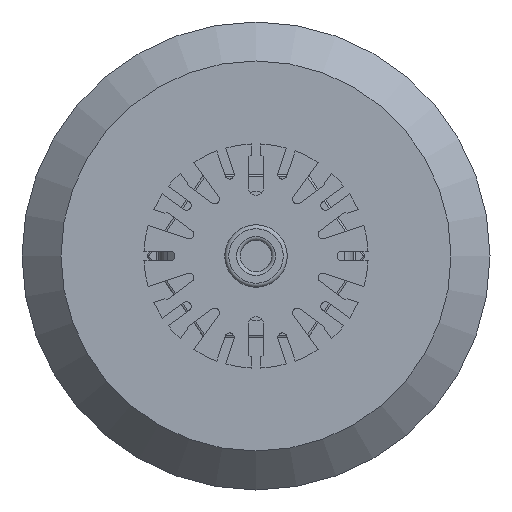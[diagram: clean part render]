
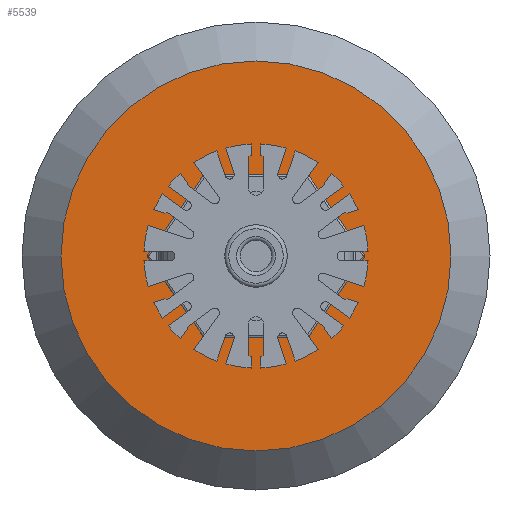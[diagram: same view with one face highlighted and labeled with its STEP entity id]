
A CAD part, front view. The second image highlights one B-rep face of the part: STEP entity #5539.
In plain terms, the highlighted planar face has unit normal (0, -1, 0).
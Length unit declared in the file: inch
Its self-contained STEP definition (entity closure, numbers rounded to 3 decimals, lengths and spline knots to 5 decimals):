
#268=FACE_BOUND('',#817,.T.);
#280=PLANE('',#5940);
#491=FACE_OUTER_BOUND('',#816,.T.);
#816=EDGE_LOOP('',(#3570,#3571));
#817=EDGE_LOOP('',(#3572));
#1878=CIRCLE('',#5938,1.25);
#1879=CIRCLE('',#5939,1.25);
#1880=CIRCLE('',#5941,0.525);
#2206=VERTEX_POINT('',#8130);
#2207=VERTEX_POINT('',#8131);
#2208=VERTEX_POINT('',#8136);
#2726=EDGE_CURVE('',#2206,#2207,#1878,.T.);
#2727=EDGE_CURVE('',#2207,#2206,#1879,.T.);
#2729=EDGE_CURVE('',#2208,#2208,#1880,.T.);
#3570=ORIENTED_EDGE('',*,*,#2726,.T.);
#3571=ORIENTED_EDGE('',*,*,#2727,.T.);
#3572=ORIENTED_EDGE('',*,*,#2729,.T.);
#5539=ADVANCED_FACE('',(#491,#268),#280,.T.);
#5938=AXIS2_PLACEMENT_3D('',#8132,#6567,#6568);
#5939=AXIS2_PLACEMENT_3D('',#8133,#6569,#6570);
#5940=AXIS2_PLACEMENT_3D('',#8135,#6572,#6573);
#5941=AXIS2_PLACEMENT_3D('',#8137,#6574,#6575);
#6567=DIRECTION('center_axis',(0.,-1.,0.));
#6568=DIRECTION('ref_axis',(1.,0.,0.));
#6569=DIRECTION('center_axis',(0.,-1.,0.));
#6570=DIRECTION('ref_axis',(1.,0.,0.));
#6572=DIRECTION('center_axis',(0.,-1.,0.));
#6573=DIRECTION('ref_axis',(-1.,0.,0.));
#6574=DIRECTION('center_axis',(0.,1.,0.));
#6575=DIRECTION('ref_axis',(-1.,0.,0.));
#8130=CARTESIAN_POINT('',(-1.25,1.75,0.));
#8131=CARTESIAN_POINT('',(1.25,1.75,0.));
#8132=CARTESIAN_POINT('Origin',(0.,1.75,0.));
#8133=CARTESIAN_POINT('Origin',(0.,1.75,0.));
#8135=CARTESIAN_POINT('Origin',(-0.5245,1.75,0.));
#8136=CARTESIAN_POINT('',(-0.525,1.75,0.));
#8137=CARTESIAN_POINT('Origin',(0.,1.75,0.));
